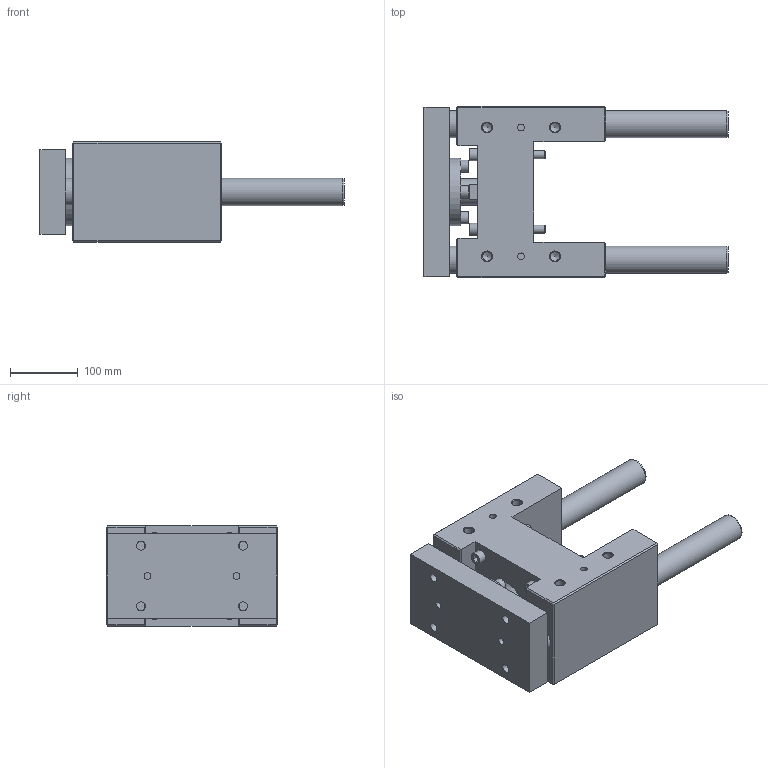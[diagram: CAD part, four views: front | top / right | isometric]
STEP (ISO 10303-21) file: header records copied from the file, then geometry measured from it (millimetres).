
FILE_DESCRIPTION( ( 'STEP AP214' ), '1' );
FILE_NAME( 'U:/Etudes/Top Solid/BIBLIO 3D AVM/TOP/PNEUMATIQUE/GUIDAGES/Type 32 (en H)/S_Lourde/320S3130.step', '2005-05-27T09:30:39', ( ' ' ), ( ' ' ), 'XStep 1.0', ' ', ' ' );
FILE_SCHEMA( ( 'automotive_design' ) );
Length unit declared in the file: metre
Products named in the file (2): 1; 2
Bounding box: 448 x 252 x 148 mm (x, y, z)
Volume: 6735671.3 mm3; surface area: 578606.9 mm2
Topology: 2 solids, 7 shells, 238 faces, 524 edges, 339 vertices
Faces by surface type: plane 149, cylinder 68, cone 21
Full cylindrical faces by diameter (mm): 10 x4, 10.106 x4, 12 x16, 13 x12, 13.835 x8, 18 x8, 20 x4, 24.835 x1, 39 x1, 40 x4, 42 x1, 57 x1, 60 x2, 65 x1, 100 x1
Entity records: 7905 total; most frequent: CARTESIAN_POINT 1198, DIRECTION 996, ORIENTED_EDGE 784, EDGE_CURVE 392, EDGE_LOOP 390, AXIS2_PLACEMENT_3D 372, FACE_OUTER_BOUND 306, VERTEX_POINT 302
